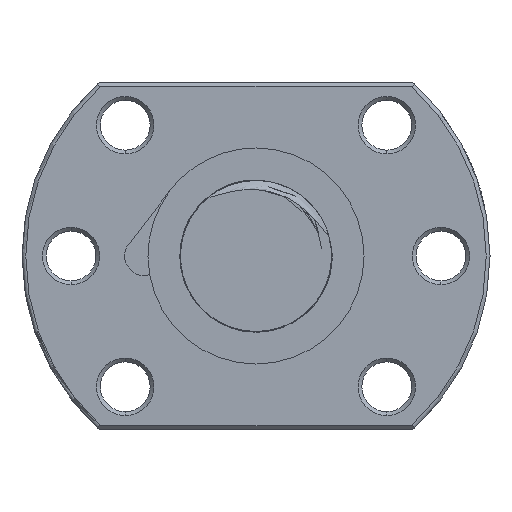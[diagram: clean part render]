
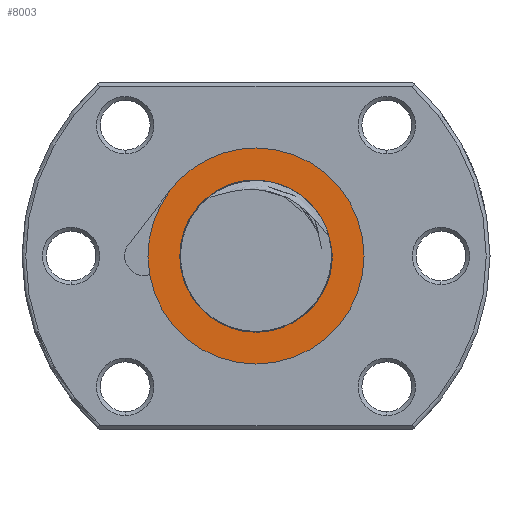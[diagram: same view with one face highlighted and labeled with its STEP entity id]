
A CAD part, left-side view. The second image highlights one B-rep face of the part: STEP entity #8003.
In plain terms, the highlighted planar face has unit normal (-1, 0, 0).
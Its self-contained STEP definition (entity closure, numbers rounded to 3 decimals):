
#6599 = CARTESIAN_POINT ( 'NONE',  ( -96.8, 14.095, -2.486 ) ) ;
#6600 = DIRECTION ( 'NONE',  ( 0., 0., 1. ) ) ;
#6601 = DIRECTION ( 'NONE',  ( -1., 0., 0. ) ) ;
#6602 = CARTESIAN_POINT ( 'NONE',  ( -96.8, 0., 0. ) ) ;
#6603 = AXIS2_PLACEMENT_3D ( 'NONE', #6602, #6601, #6600 ) ;
#6604 = CIRCLE ( 'NONE', #6603, 14.313 ) ;
#6913 = DIRECTION ( 'NONE',  ( 0., 0., 1. ) ) ;
#6914 = DIRECTION ( 'NONE',  ( -1., 0., 0. ) ) ;
#6915 = AXIS2_PLACEMENT_3D ( 'NONE', #6956, #6914, #6913 ) ;
#6916 = CIRCLE ( 'NONE', #6915, 14.313 ) ;
#6917 = CARTESIAN_POINT ( 'NONE',  ( -96.8, 5.379, 8.548 ) ) ;
#6918 = CARTESIAN_POINT ( 'NONE',  ( -96.8, 5.287, 8.517 ) ) ;
#6919 = CARTESIAN_POINT ( 'NONE',  ( -96.8, 5.189, 8.508 ) ) ;
#6920 = CARTESIAN_POINT ( 'NONE',  ( -96.8, 4.996, 8.503 ) ) ;
#6921 = CARTESIAN_POINT ( 'NONE',  ( -96.8, 4.899, 8.507 ) ) ;
#6922 = CARTESIAN_POINT ( 'NONE',  ( -96.8, 4.609, 8.531 ) ) ;
#6923 = CARTESIAN_POINT ( 'NONE',  ( -96.8, 4.417, 8.558 ) ) ;
#6924 = CARTESIAN_POINT ( 'NONE',  ( -96.8, 3.841, 8.645 ) ) ;
#6925 = CARTESIAN_POINT ( 'NONE',  ( -96.8, 3.459, 8.709 ) ) ;
#6926 = CARTESIAN_POINT ( 'NONE',  ( -96.8, 2.69, 8.814 ) ) ;
#6927 = CARTESIAN_POINT ( 'NONE',  ( -96.8, 2.303, 8.857 ) ) ;
#6928 = CARTESIAN_POINT ( 'NONE',  ( -96.8, 1.531, 8.909 ) ) ;
#6929 = CARTESIAN_POINT ( 'NONE',  ( -96.8, 1.145, 8.919 ) ) ;
#6930 = CARTESIAN_POINT ( 'NONE',  ( -96.8, 0.376, 8.903 ) ) ;
#6931 = CARTESIAN_POINT ( 'NONE',  ( -96.8, -0.008, 8.876 ) ) ;
#6932 = CARTESIAN_POINT ( 'NONE',  ( -96.8, -0.773, 8.784 ) ) ;
#6933 = CARTESIAN_POINT ( 'NONE',  ( -96.8, -1.157, 8.718 ) ) ;
#6934 = CARTESIAN_POINT ( 'NONE',  ( -96.8, -2.291, 8.459 ) ) ;
#6935 = CARTESIAN_POINT ( 'NONE',  ( -96.8, -3.016, 8.21 ) ) ;
#6936 = CARTESIAN_POINT ( 'NONE',  ( -96.8, -4.057, 7.72 ) ) ;
#6937 = CARTESIAN_POINT ( 'NONE',  ( -96.8, -4.396, 7.537 ) ) ;
#6938 = CARTESIAN_POINT ( 'NONE',  ( -96.8, -5.058, 7.132 ) ) ;
#6939 = CARTESIAN_POINT ( 'NONE',  ( -96.8, -5.378, 6.912 ) ) ;
#6940 = CARTESIAN_POINT ( 'NONE',  ( -96.8, -6.292, 6.208 ) ) ;
#6941 = CARTESIAN_POINT ( 'NONE',  ( -96.8, -6.846, 5.678 ) ) ;
#6942 = CARTESIAN_POINT ( 'NONE',  ( -96.8, -7.603, 4.802 ) ) ;
#6943 = CARTESIAN_POINT ( 'NONE',  ( -96.8, -7.843, 4.495 ) ) ;
#6944 = CARTESIAN_POINT ( 'NONE',  ( -96.8, -8.296, 3.866 ) ) ;
#6945 = CARTESIAN_POINT ( 'NONE',  ( -96.8, -8.508, 3.542 ) ) ;
#6946 = CARTESIAN_POINT ( 'NONE',  ( -96.8, -8.916, 2.884 ) ) ;
#6947 = CARTESIAN_POINT ( 'NONE',  ( -96.8, -9.11, 2.549 ) ) ;
#6948 = CARTESIAN_POINT ( 'NONE',  ( -96.8, -9.41, 2.051 ) ) ;
#6949 = CARTESIAN_POINT ( 'NONE',  ( -96.8, -9.511, 1.886 ) ) ;
#6950 = CARTESIAN_POINT ( 'NONE',  ( -96.8, -9.677, 1.649 ) ) ;
#6951 = CARTESIAN_POINT ( 'NONE',  ( -96.8, -9.735, 1.571 ) ) ;
#6952 = CARTESIAN_POINT ( 'NONE',  ( -96.8, -9.862, 1.426 ) ) ;
#6953 = CARTESIAN_POINT ( 'NONE',  ( -96.8, -9.932, 1.355 ) ) ;
#6954 = CARTESIAN_POINT ( 'NONE',  ( -96.8, -10.015, 1.304 ) ) ;
#6955 = B_SPLINE_CURVE_WITH_KNOTS ( 'NONE', 3,
 ( #6954, #6953, #6952, #6951, #6950, #6949, #6948, #6947, #6946, #6945, #6944, #6943, #6942, #6941, #6940, #6939, #6938, #6937, #6936, #6935, #6934, #6933, #6932, #6931, #6930, #6929, #6928, #6927, #6926, #6925, #6924, #6923, #6922, #6921, #6920, #6919, #6918, #6917 ),
 .UNSPECIFIED., .F., .F.,
 ( 4, 2, 2, 2, 2, 2, 2, 2, 2, 2, 2, 2, 2, 2, 2, 2, 2, 2, 4 ),
 ( 0.025, 0.025, 0.025, 0.026, 0.027, 0.028, 0.029, 0.032, 0.033, 0.034, 0.036, 0.038, 0.039, 0.04, 0.041, 0.042, 0.043, 0.043, 0.043 ),
 .UNSPECIFIED. ) ;
#6956 = CARTESIAN_POINT ( 'NONE',  ( -96.8, 0., 0. ) ) ;
#6957 = DIRECTION ( 'NONE',  ( 0., 0., 1. ) ) ;
#6958 = DIRECTION ( 'NONE',  ( -1., 0., 0. ) ) ;
#6959 = CARTESIAN_POINT ( 'NONE',  ( -96.8, 0., 10.1 ) ) ;
#6960 = AXIS2_PLACEMENT_3D ( 'NONE', #6959, #6958, #6957 ) ;
#6961 = PLANE ( 'NONE',  #6960 ) ;
#6962 = FACE_OUTER_BOUND ( 'NONE', #8009, .T. ) ;
#6982 = FACE_BOUND ( 'NONE', #8004, .T. ) ;
#6989 = DIRECTION ( 'NONE',  ( 0., 0., 1. ) ) ;
#6990 = DIRECTION ( 'NONE',  ( -1., 0., 0. ) ) ;
#6991 = CARTESIAN_POINT ( 'NONE',  ( -96.8, 0., 0. ) ) ;
#6992 = AXIS2_PLACEMENT_3D ( 'NONE', #6991, #6990, #6989 ) ;
#7001 = CIRCLE ( 'NONE', #6992, 10.1 ) ;
#7021 = CARTESIAN_POINT ( 'NONE',  ( -96.8, 5.379, 8.548 ) ) ;
#7569 = EDGE_CURVE ( 'NONE', #7570, #7571, #13166, .T. ) ;
#7570 = VERTEX_POINT ( 'NONE', #13162 ) ;
#7571 = VERTEX_POINT ( 'NONE', #13141 ) ;
#7583 = EDGE_CURVE ( 'NONE', #7571, #7584, #13118, .T. ) ;
#7584 = VERTEX_POINT ( 'NONE', #13114 ) ;
#7660 = VERTEX_POINT ( 'NONE', #13418 ) ;
#7663 = VERTEX_POINT ( 'NONE', #13413 ) ;
#7665 = EDGE_CURVE ( 'NONE', #7663, #7660, #13475, .T. ) ;
#7935 = EDGE_CURVE ( 'NONE', #7936, #7570, #6604, .T. ) ;
#7936 = VERTEX_POINT ( 'NONE', #6599 ) ;
#7956 = ORIENTED_EDGE ( 'NONE', *, *, #7935, .T. ) ;
#7957 = ORIENTED_EDGE ( 'NONE', *, *, #7569, .T. ) ;
#7958 = ORIENTED_EDGE ( 'NONE', *, *, #7583, .T. ) ;
#7994 = VERTEX_POINT ( 'NONE', #7021 ) ;
#7996 = EDGE_CURVE ( 'NONE', #7994, #7663, #7001, .T. ) ;
#8003 = ADVANCED_FACE ( 'NONE', ( #6982, #6962 ), #6961, .T. ) ;
#8004 = EDGE_LOOP ( 'NONE', ( #8005, #8006, #8008 ) ) ;
#8005 = ORIENTED_EDGE ( 'NONE', *, *, #7996, .F. ) ;
#8006 = ORIENTED_EDGE ( 'NONE', *, *, #8007, .F. ) ;
#8007 = EDGE_CURVE ( 'NONE', #7660, #7994, #6955, .T. ) ;
#8008 = ORIENTED_EDGE ( 'NONE', *, *, #7665, .F. ) ;
#8009 = EDGE_LOOP ( 'NONE', ( #8010, #7956, #7957, #7958 ) ) ;
#8010 = ORIENTED_EDGE ( 'NONE', *, *, #8011, .T. ) ;
#8011 = EDGE_CURVE ( 'NONE', #7584, #7936, #6916, .T. ) ;
#13114 = CARTESIAN_POINT ( 'NONE',  ( -96.8, 11.329, 8.746 ) ) ;
#13115 = DIRECTION ( 'NONE',  ( 0., 0., 1. ) ) ;
#13116 = DIRECTION ( 'NONE',  ( -1., 0., 0. ) ) ;
#13117 = AXIS2_PLACEMENT_3D ( 'NONE', #13124, #13116, #13115 ) ;
#13118 = CIRCLE ( 'NONE', #13117, 14.313 ) ;
#13124 = CARTESIAN_POINT ( 'NONE',  ( -96.8, 0., 0. ) ) ;
#13141 = CARTESIAN_POINT ( 'NONE',  ( -96.8, 0., 14.313 ) ) ;
#13162 = CARTESIAN_POINT ( 'NONE',  ( -96.8, 0., -14.313 ) ) ;
#13163 = DIRECTION ( 'NONE',  ( 0., 0., 1. ) ) ;
#13164 = DIRECTION ( 'NONE',  ( -1., 0., 0. ) ) ;
#13165 = AXIS2_PLACEMENT_3D ( 'NONE', #13167, #13164, #13163 ) ;
#13166 = CIRCLE ( 'NONE', #13165, 14.313 ) ;
#13167 = CARTESIAN_POINT ( 'NONE',  ( -96.8, 0., 0. ) ) ;
#13413 = CARTESIAN_POINT ( 'NONE',  ( -96.8, 0., -10.1 ) ) ;
#13418 = CARTESIAN_POINT ( 'NONE',  ( -96.8, -10.015, 1.304 ) ) ;
#13471 = DIRECTION ( 'NONE',  ( 0., 0., 1. ) ) ;
#13472 = DIRECTION ( 'NONE',  ( -1., 0., 0. ) ) ;
#13473 = CARTESIAN_POINT ( 'NONE',  ( -96.8, 0., 0. ) ) ;
#13474 = AXIS2_PLACEMENT_3D ( 'NONE', #13473, #13472, #13471 ) ;
#13475 = CIRCLE ( 'NONE', #13474, 10.1 ) ;
